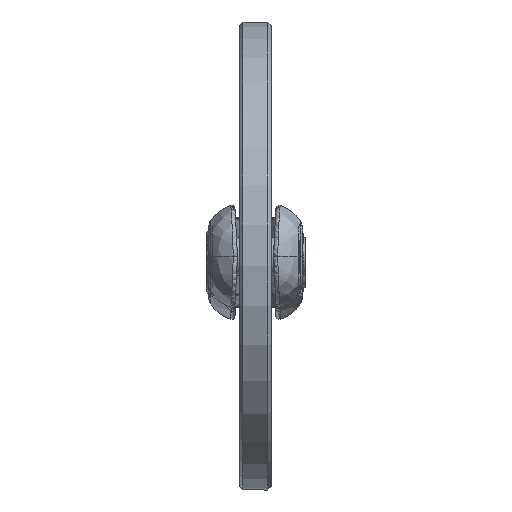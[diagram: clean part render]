
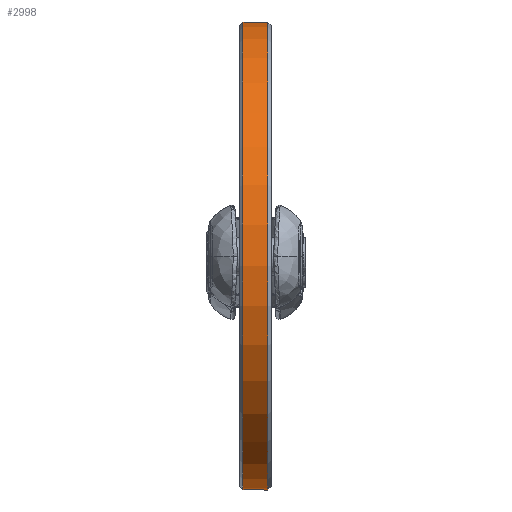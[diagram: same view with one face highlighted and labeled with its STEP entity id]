
A CAD part, top view. The second image highlights one B-rep face of the part: STEP entity #2998.
In plain terms, the highlighted cylindrical face has radius 150 mm (diameter 300 mm), a full revolution.
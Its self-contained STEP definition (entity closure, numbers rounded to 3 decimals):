
#720=FACE_BOUND($,#1364,.T.);
#902=CIRCLE($,#3327,150.);
#903=CIRCLE($,#3329,150.);
#1086=FACE_OUTER_BOUND($,#1363,.T.);
#1363=EDGE_LOOP($,(#2751));
#1364=EDGE_LOOP($,(#2752));
#1644=VERTEX_POINT($,#13491);
#1645=VERTEX_POINT($,#13494);
#2018=EDGE_CURVE($,#1644,#1644,#902,.T.);
#2019=EDGE_CURVE($,#1645,#1645,#903,.T.);
#2751=ORIENTED_EDGE($,*,*,#2019,.F.);
#2752=ORIENTED_EDGE($,*,*,#2018,.F.);
#2803=CYLINDRICAL_SURFACE($,#3328,150.);
#2998=ADVANCED_FACE($,(#1086,#720),#2803,.T.);
#3327=AXIS2_PLACEMENT_3D($,#13492,#4036,#4037);
#3328=AXIS2_PLACEMENT_3D($,#13493,#4038,#4039);
#3329=AXIS2_PLACEMENT_3D($,#13495,#4040,#4041);
#4036=DIRECTION('center_axis',(0.,0.,-1.));
#4037=DIRECTION('ref_axis',(-1.,0.,0.));
#4038=DIRECTION('center_axis',(0.,0.,1.));
#4039=DIRECTION('ref_axis',(-1.,0.,0.));
#4040=DIRECTION('center_axis',(0.,0.,1.));
#4041=DIRECTION('ref_axis',(-1.,0.,0.));
#13491=CARTESIAN_POINT('',(150.,0.,-8.));
#13492=CARTESIAN_POINT('Origin',(0.,0.,-8.));
#13493=CARTESIAN_POINT('Origin',(0.,0.,0.));
#13494=CARTESIAN_POINT('',(150.,0.,8.));
#13495=CARTESIAN_POINT('Origin',(0.,0.,8.));
